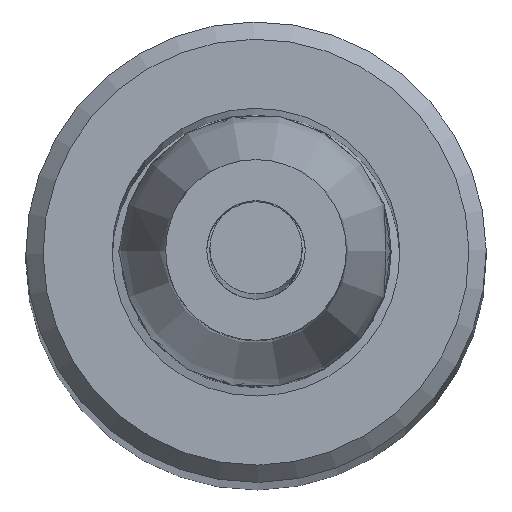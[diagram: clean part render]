
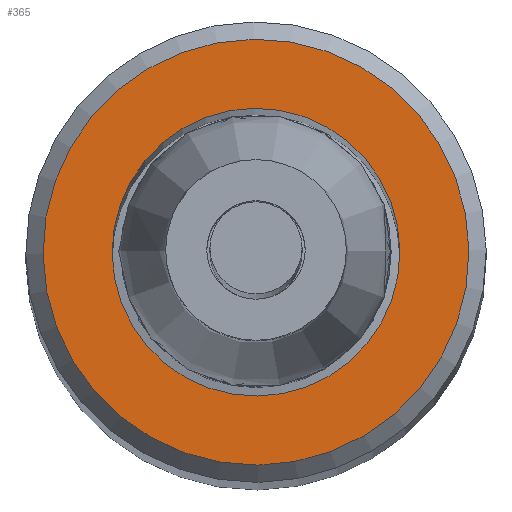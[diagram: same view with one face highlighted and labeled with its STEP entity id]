
A CAD part, top view. The second image highlights one B-rep face of the part: STEP entity #365.
In plain terms, the highlighted planar face has unit normal (0, 0, 1) as drawn and (0, -1, 0) by its records, which use the part's own axes.
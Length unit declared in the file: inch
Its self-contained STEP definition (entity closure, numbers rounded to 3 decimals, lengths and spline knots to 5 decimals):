
#314=CARTESIAN_POINT('',(13.52604,3.98029,0.));
#315=VERTEX_POINT('',#314);
#316=CARTESIAN_POINT('',(9.82604,3.98029,0.0));
#317=DIRECTION('',(0.0,1.0,0.0));
#318=DIRECTION('',(-1.0,0.0,0.0));
#319=AXIS2_PLACEMENT_3D('',#316,#317,#318);
#320=CIRCLE('',#319,3.7);
#321=EDGE_CURVE('',#315,#315,#320,.T.);
#346=CARTESIAN_POINT('',(13.07604,3.98029,0.0));
#347=DIRECTION('',(0.0,-1.0,0.0));
#348=DIRECTION('',(0.0,0.0,-1.0));
#349=AXIS2_PLACEMENT_3D('',#346,#347,#348);
#350=PLANE('',#349);
#351=ORIENTED_EDGE('',*,*,#321,.F.);
#352=EDGE_LOOP('',(#351));
#353=FACE_OUTER_BOUND('',#352,.T.);
#354=CARTESIAN_POINT('',(12.32604,3.98029,0.0));
#355=VERTEX_POINT('',#354);
#356=CARTESIAN_POINT('',(9.82604,3.98029,0.0));
#357=DIRECTION('',(0.0,-1.0,0.0));
#358=DIRECTION('',(1.0,0.0,0.0));
#359=AXIS2_PLACEMENT_3D('',#356,#357,#358);
#360=CIRCLE('',#359,2.5);
#361=EDGE_CURVE('',#355,#355,#360,.T.);
#362=ORIENTED_EDGE('',*,*,#361,.F.);
#363=EDGE_LOOP('',(#362));
#364=FACE_BOUND('',#363,.T.);
#365=ADVANCED_FACE('',(#353,#364),#350,.T.);
